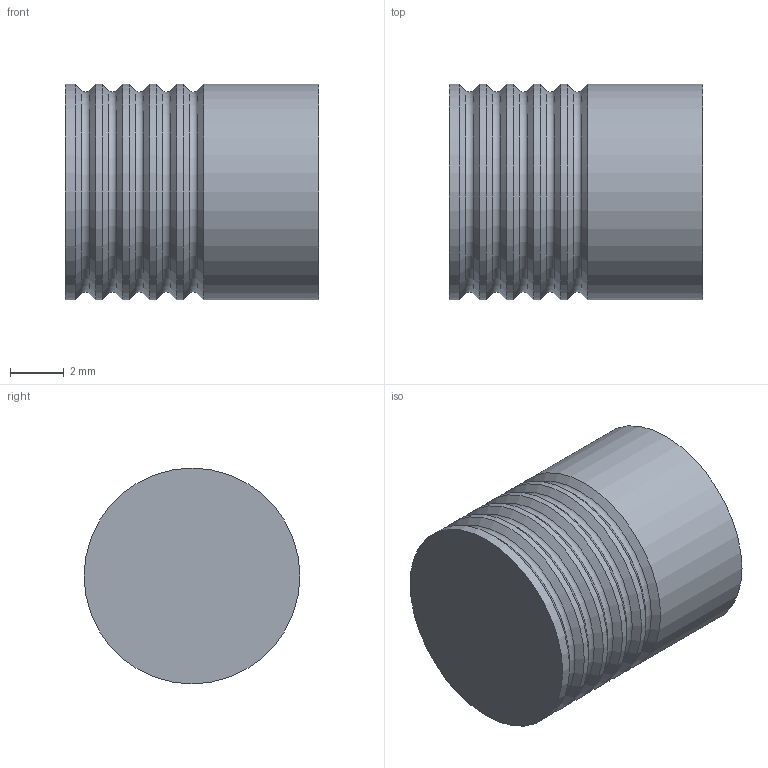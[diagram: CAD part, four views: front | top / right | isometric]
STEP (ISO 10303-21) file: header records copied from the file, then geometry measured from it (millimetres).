
FILE_DESCRIPTION(/* description */ ('LEE ORIFICE, 8mm, REVERSE, GAS, SCREENED'),/* implementation_level */ '2;1');
FILE_NAME(/* name */ '\\ABSOLUTE\SmWork\Vernon\RIGR8053XXXS.stp',/* time_stamp */ '2021-03-23T14:48:24-04:00',/* author */ ('VernonJ'),/* organization */ (''),/* preprocessor_version */ 'ST-DEVELOPER v18',/* originating_system */ 'Autodesk Inventor 2020',/* authorisation */ '');
FILE_SCHEMA (('AUTOMOTIVE_DESIGN { 1 0 10303 214 3 1 1 }'));
Length unit declared in the file: millimetre
Products named in the file (1): RIGR8053XXXS
Bounding box: 9.4 x 8 x 8 mm (x, y, z)
Volume: 455.7 mm3; surface area: 360.5 mm2
Topology: 1 solids, 1 shells, 23 faces, 75 edges, 54 vertices
Faces by surface type: cone 10, cylinder 6, torus 5, plane 2
Full cylindrical faces by diameter (mm): 8 x6
Entity records: 925 total; most frequent: DIRECTION 182, CARTESIAN_POINT 153, ORIENTED_EDGE 150, AXIS2_PLACEMENT_3D 83, EDGE_CURVE 75, CIRCLE 59, VERTEX_POINT 54, FACE_OUTER_BOUND 23
